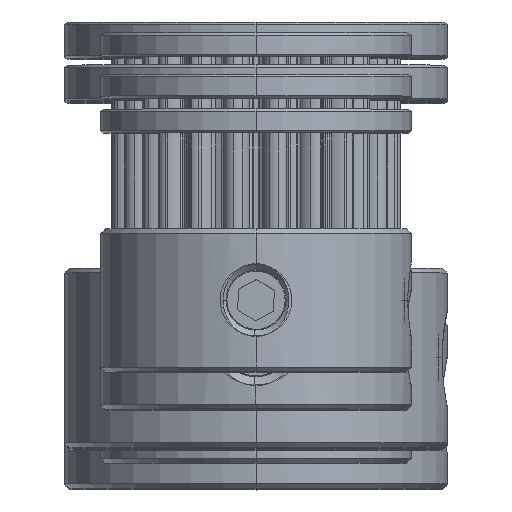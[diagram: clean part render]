
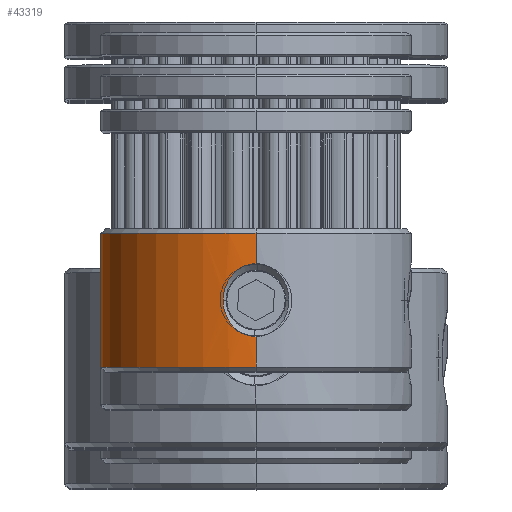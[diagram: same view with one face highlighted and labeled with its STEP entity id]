
A CAD part, top view. The second image highlights one B-rep face of the part: STEP entity #43319.
In plain terms, the highlighted cylindrical face has radius 6.5 mm (diameter 13 mm), a partial arc.
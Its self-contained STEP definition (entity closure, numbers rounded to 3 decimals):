
#186 = DIRECTION ( 'NONE',  ( 0., -1., 0. ) ) ;
#480 = CARTESIAN_POINT ( 'NONE',  ( 0., -1.525, 6.5 ) ) ;
#714 = CARTESIAN_POINT ( 'NONE',  ( -0.875, -1.193, 6.442 ) ) ;
#820 = VECTOR ( 'NONE', #18398, 1000. ) ;
#967 = CARTESIAN_POINT ( 'NONE',  ( -0.466, 1.438, 6.484 ) ) ;
#1169 = CARTESIAN_POINT ( 'NONE',  ( -1.345, -0.379, 6.36 ) ) ;
#1191 = CARTESIAN_POINT ( 'NONE',  ( -0.636, 1.355, 6.469 ) ) ;
#1407 = CARTESIAN_POINT ( 'NONE',  ( -0.191, 1.514, 6.498 ) ) ;
#2888 = LINE ( 'NONE', #14812, #57036 ) ;
#6255 = CARTESIAN_POINT ( 'NONE',  ( -0.095, 1.525, 6.5 ) ) ;
#7106 = CARTESIAN_POINT ( 'NONE',  ( 0., 2.8, -6.5 ) ) ;
#9353 = CARTESIAN_POINT ( 'NONE',  ( 0., 3., 0. ) ) ;
#9787 = VERTEX_POINT ( 'NONE', #23731 ) ;
#12075 = ORIENTED_EDGE ( 'NONE', *, *, #14914, .F. ) ;
#13119 = AXIS2_PLACEMENT_3D ( 'NONE', #9353, #56793, #40968 ) ;
#13448 = CIRCLE ( 'NONE', #15651, 6.5 ) ;
#14812 = CARTESIAN_POINT ( 'NONE',  ( 0., 3., 6.5 ) ) ;
#14914 = EDGE_CURVE ( 'NONE', #26828, #9787, #16987, .T. ) ;
#15651 = AXIS2_PLACEMENT_3D ( 'NONE', #57910, #41851, #20554 ) ;
#15674 = ORIENTED_EDGE ( 'NONE', *, *, #62186, .T. ) ;
#16283 = CARTESIAN_POINT ( 'NONE',  ( -1.377, -0.19, 6.352 ) ) ;
#16381 = LINE ( 'NONE', #28721, #820 ) ;
#16964 = CARTESIAN_POINT ( 'NONE',  ( -0.719, 1.304, 6.461 ) ) ;
#16987 = LINE ( 'NONE', #25042, #39958 ) ;
#17432 = CARTESIAN_POINT ( 'NONE',  ( -0.377, 1.47, 6.49 ) ) ;
#18398 = DIRECTION ( 'NONE',  ( 0., -1., 0. ) ) ;
#19851 = EDGE_LOOP ( 'NONE', ( #60570, #54819, #34724, #47700, #12075, #33487, #15674 ) ) ;
#20078 = AXIS2_PLACEMENT_3D ( 'NONE', #62973, #186, #25616 ) ;
#20554 = DIRECTION ( 'NONE',  ( 0., 0., 1. ) ) ;
#21119 = EDGE_CURVE ( 'NONE', #67352, #9787, #13448, .T. ) ;
#21811 = CARTESIAN_POINT ( 'NONE',  ( -1.209, 0.735, 6.387 ) ) ;
#23731 = CARTESIAN_POINT ( 'NONE',  ( 0., -2.8, 6.5 ) ) ;
#23884 = B_SPLINE_CURVE_WITH_KNOTS ( 'NONE', 3,
 ( #480, #37602, #37161, #32549, #714, #52926, #42649, #1169, #16283, #27060 ),
 .UNSPECIFIED., .F., .F.,
 ( 4, 2, 2, 2, 4 ),
 ( 0.008, 0.009, 0.009, 0.01, 0.01 ),
 .UNSPECIFIED. ) ;
#25042 = CARTESIAN_POINT ( 'NONE',  ( 0., 3., 6.5 ) ) ;
#25395 = CARTESIAN_POINT ( 'NONE',  ( 0., -1.525, 6.5 ) ) ;
#25616 = DIRECTION ( 'NONE',  ( 0., 0., 1. ) ) ;
#26828 = VERTEX_POINT ( 'NONE', #25395 ) ;
#27060 = CARTESIAN_POINT ( 'NONE',  ( -1.377, 0., 6.352 ) ) ;
#27082 = CARTESIAN_POINT ( 'NONE',  ( -1.248, 0.65, 6.379 ) ) ;
#27314 = CARTESIAN_POINT ( 'NONE',  ( -1.345, 0.381, 6.36 ) ) ;
#28721 = CARTESIAN_POINT ( 'NONE',  ( 0., 3., -6.5 ) ) ;
#29503 = EDGE_CURVE ( 'NONE', #56687, #44401, #60561, .T. ) ;
#32366 = CARTESIAN_POINT ( 'NONE',  ( -0.867, 1.187, 6.442 ) ) ;
#32549 = CARTESIAN_POINT ( 'NONE',  ( -0.723, -1.313, 6.462 ) ) ;
#32580 = CARTESIAN_POINT ( 'NONE',  ( -1.114, 0.899, 6.404 ) ) ;
#33487 = ORIENTED_EDGE ( 'NONE', *, *, #45772, .T. ) ;
#34687 = CARTESIAN_POINT ( 'NONE',  ( 0., 1.525, 6.5 ) ) ;
#34724 = ORIENTED_EDGE ( 'NONE', *, *, #41542, .T. ) ;
#37161 = CARTESIAN_POINT ( 'NONE',  ( -0.381, -1.479, 6.491 ) ) ;
#37602 = CARTESIAN_POINT ( 'NONE',  ( -0.191, -1.525, 6.5 ) ) ;
#38300 = CARTESIAN_POINT ( 'NONE',  ( -1.377, 0.191, 6.352 ) ) ;
#39002 = CARTESIAN_POINT ( 'NONE',  ( 0., 2.8, 6.5 ) ) ;
#39958 = VECTOR ( 'NONE', #55997, 1000. ) ;
#40025 = DIRECTION ( 'NONE',  ( 0., -1., 0. ) ) ;
#40423 = CARTESIAN_POINT ( 'NONE',  ( 0., -2.8, -6.5 ) ) ;
#40968 = DIRECTION ( 'NONE',  ( 0., 0., -1. ) ) ;
#41542 = EDGE_CURVE ( 'NONE', #44401, #67352, #16381, .T. ) ;
#41851 = DIRECTION ( 'NONE',  ( 0., 1., 0. ) ) ;
#41977 = B_SPLINE_CURVE_WITH_KNOTS ( 'NONE', 3,
 ( #53399, #38300, #27314, #27082, #21811, #32580, #43530, #63757, #32366, #16964, #1191, #967, #17432, #1407, #6255, #48353 ),
 .UNSPECIFIED., .F., .F.,
 ( 4, 2, 2, 2, 2, 2, 2, 4 ),
 ( 0.001, 0.002, 0.002, 0.002, 0.003, 0.003, 0.003, 0.003 ),
 .UNSPECIFIED. ) ;
#42649 = CARTESIAN_POINT ( 'NONE',  ( -1.217, -0.738, 6.385 ) ) ;
#43319 = ADVANCED_FACE ( 'NONE', ( #67365 ), #65692, .T. ) ;
#43530 = CARTESIAN_POINT ( 'NONE',  ( -1.059, 0.978, 6.413 ) ) ;
#44401 = VERTEX_POINT ( 'NONE', #7106 ) ;
#45772 = EDGE_CURVE ( 'NONE', #26828, #63441, #23884, .T. ) ;
#47659 = EDGE_CURVE ( 'NONE', #56687, #53767, #2888, .T. ) ;
#47700 = ORIENTED_EDGE ( 'NONE', *, *, #21119, .T. ) ;
#48353 = CARTESIAN_POINT ( 'NONE',  ( 0., 1.525, 6.5 ) ) ;
#52926 = CARTESIAN_POINT ( 'NONE',  ( -1.123, -0.903, 6.403 ) ) ;
#53399 = CARTESIAN_POINT ( 'NONE',  ( -1.377, 0., 6.352 ) ) ;
#53767 = VERTEX_POINT ( 'NONE', #34687 ) ;
#54819 = ORIENTED_EDGE ( 'NONE', *, *, #29503, .T. ) ;
#55997 = DIRECTION ( 'NONE',  ( 0., -1., 0. ) ) ;
#56687 = VERTEX_POINT ( 'NONE', #39002 ) ;
#56793 = DIRECTION ( 'NONE',  ( 0., -1., 0. ) ) ;
#57036 = VECTOR ( 'NONE', #40025, 1000. ) ;
#57910 = CARTESIAN_POINT ( 'NONE',  ( 0., -2.8, 0. ) ) ;
#59629 = CARTESIAN_POINT ( 'NONE',  ( -1.377, 0., 6.352 ) ) ;
#60561 = CIRCLE ( 'NONE', #20078, 6.5 ) ;
#60570 = ORIENTED_EDGE ( 'NONE', *, *, #47659, .F. ) ;
#62186 = EDGE_CURVE ( 'NONE', #63441, #53767, #41977, .T. ) ;
#62973 = CARTESIAN_POINT ( 'NONE',  ( 0., 2.8, 0. ) ) ;
#63441 = VERTEX_POINT ( 'NONE', #59629 ) ;
#63757 = CARTESIAN_POINT ( 'NONE',  ( -0.935, 1.122, 6.433 ) ) ;
#65692 = CYLINDRICAL_SURFACE ( 'NONE', #13119, 6.5 ) ;
#67352 = VERTEX_POINT ( 'NONE', #40423 ) ;
#67365 = FACE_OUTER_BOUND ( 'NONE', #19851, .T. ) ;
